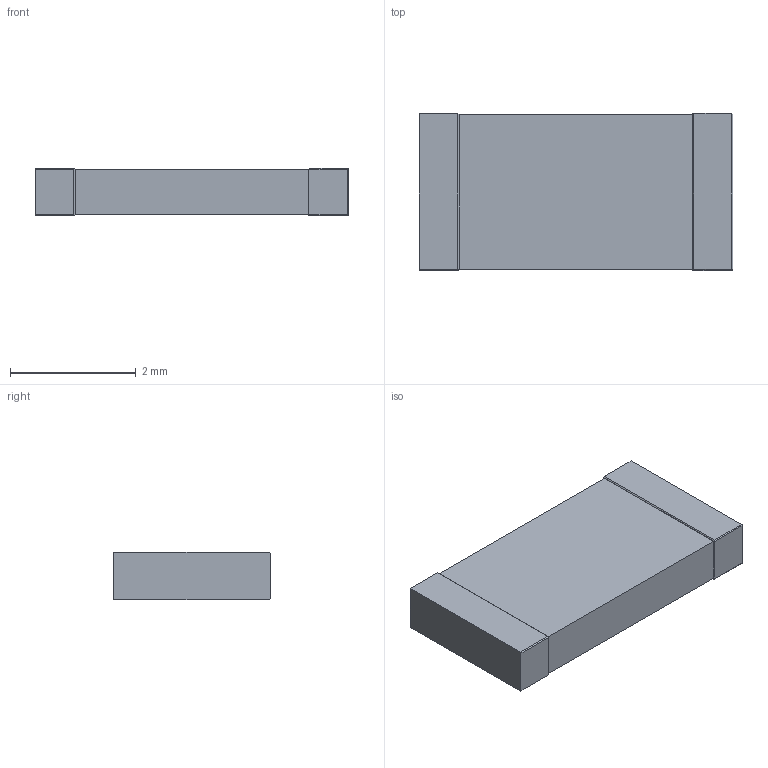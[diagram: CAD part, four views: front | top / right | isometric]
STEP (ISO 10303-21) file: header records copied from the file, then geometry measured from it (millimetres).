
FILE_DESCRIPTION(('for SolidWorks'),'2;1');
FILE_NAME('res_2010.step', '2016-05-06T13:38:41',('pcbdesigner.ru'),('www.pcbdesigner.ru'),'Open CASCADE STEP processor 6.6', 'DipTrace','Unknown');
FILE_SCHEMA(('AUTOMOTIVE_DESIGN { 1 0 10303 214 1 1 1 1 }'));
Length unit declared in the file: millimetre
Products named in the file (1): RES_2010
Bounding box: 5 x 2.5 x 0.76 mm (x, y, z)
Volume: 9 mm3; surface area: 35.9 mm2
Topology: 1 solids, 1 shells, 28 faces, 66 edges, 41 vertices
Faces by surface type: plane 28
Entity records: 987 total; most frequent: CARTESIAN_POINT 136, ORIENTED_EDGE 132, DIRECTION 124, EDGE_CURVE 66, LINE 66, VECTOR 66, VERTEX_POINT 41, AXIS2_PLACEMENT_3D 29
